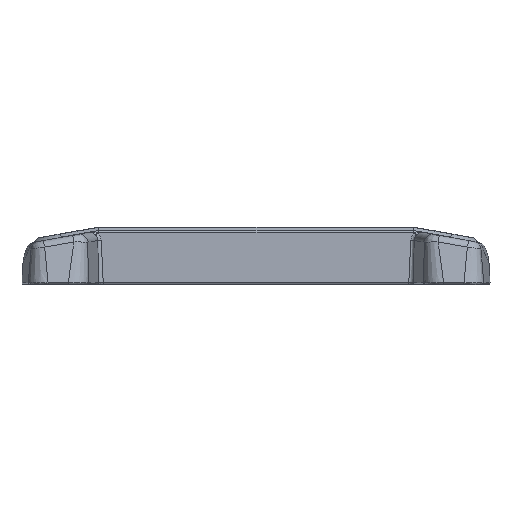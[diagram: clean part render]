
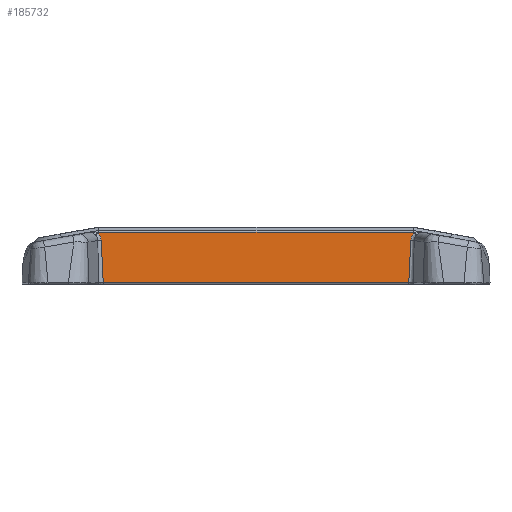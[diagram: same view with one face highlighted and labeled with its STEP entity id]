
A CAD part, top view. The second image highlights one B-rep face of the part: STEP entity #185732.
In plain terms, the highlighted planar face has unit normal (0, 0.018, 1).
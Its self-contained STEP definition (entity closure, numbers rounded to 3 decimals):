
#12583=CARTESIAN_POINT('',(193.098,-70.116,
167.4));
#12623=CARTESIAN_POINT('',(-193.098,-70.116,
167.4));
#12624=CARTESIAN_POINT('',(-193.215,-67.715,
167.358));
#12625=CARTESIAN_POINT('',(-193.446,-62.987,
167.275));
#12626=CARTESIAN_POINT('',(-193.783,-56.137,
167.156));
#12627=CARTESIAN_POINT('',(-194.111,-49.457,
167.039));
#12628=CARTESIAN_POINT('',(-194.432,-42.899,
166.925));
#12629=CARTESIAN_POINT('',(-194.745,-36.407,
166.811));
#12630=CARTESIAN_POINT('',(-195.046,-29.948,
166.698));
#12631=CARTESIAN_POINT('',(-195.331,-23.492,
166.586));
#12632=CARTESIAN_POINT('',(-195.508,-19.16,
166.51));
#12633=CARTESIAN_POINT('',(-195.592,-16.99,
166.472));
#12638=CARTESIAN_POINT('',(-195.592,-16.99,
166.472));
#12639=CARTESIAN_POINT('',(-195.599,-16.818,
166.469));
#12640=CARTESIAN_POINT('',(-195.618,-16.477,
166.463));
#12641=CARTESIAN_POINT('',(-195.666,-15.964,
166.454));
#12642=CARTESIAN_POINT('',(-195.731,-15.454,
166.445));
#12643=CARTESIAN_POINT('',(-195.815,-14.947,
166.437));
#12644=CARTESIAN_POINT('',(-195.918,-14.443,
166.428));
#12645=CARTESIAN_POINT('',(-196.038,-13.943,
166.419));
#12646=CARTESIAN_POINT('',(-196.175,-13.448,
166.41));
#12647=CARTESIAN_POINT('',(-196.331,-12.958,
166.402));
#12648=CARTESIAN_POINT('',(-196.504,-12.475,
166.393));
#12649=CARTESIAN_POINT('',(-196.693,-11.998,
166.385));
#12650=CARTESIAN_POINT('',(-196.9,-11.529,
166.377));
#12651=CARTESIAN_POINT('',(-197.124,-11.067,
166.369));
#12652=CARTESIAN_POINT('',(-197.363,-10.614,
166.361));
#12653=CARTESIAN_POINT('',(-197.619,-10.17,
166.353));
#12654=CARTESIAN_POINT('',(-197.89,-9.736,
166.346));
#12655=CARTESIAN_POINT('',(-198.177,-9.312,
166.338));
#12656=CARTESIAN_POINT('',(-198.478,-8.898,
166.331));
#12657=CARTESIAN_POINT('',(-198.794,-8.496,
166.324));
#12658=CARTESIAN_POINT('',(-199.124,-8.105,
166.317));
#12659=CARTESIAN_POINT('',(-199.468,-7.727,
166.311));
#12660=CARTESIAN_POINT('',(-199.825,-7.362,
166.304));
#12661=CARTESIAN_POINT('',(-200.071,-7.127,
166.3));
#12662=CARTESIAN_POINT('',(-200.196,-7.012,
166.298));
#12667=DIRECTION('',(-0.985,-0.175,0.003));
#12668=VECTOR('',#12667,1.445);
#12669=CARTESIAN_POINT('',(-198.773,-6.759,
166.294));
#12670=LINE('',#12669,#12668);
#12674=DIRECTION('',(-0.985,0.175,-0.003));
#12675=VECTOR('',#12674,1.445);
#12676=CARTESIAN_POINT('',(200.196,-7.012,
166.298));
#12677=LINE('',#12676,#12675);
#12681=CARTESIAN_POINT('',(195.592,-16.99,
166.472));
#12682=CARTESIAN_POINT('',(195.599,-16.81,
166.469));
#12683=CARTESIAN_POINT('',(195.62,-16.452,
166.463));
#12684=CARTESIAN_POINT('',(195.671,-15.916,
166.454));
#12685=CARTESIAN_POINT('',(195.742,-15.382,
166.444));
#12686=CARTESIAN_POINT('',(195.833,-14.851,
166.435));
#12687=CARTESIAN_POINT('',(195.944,-14.323,
166.426));
#12688=CARTESIAN_POINT('',(196.075,-13.801,
166.417));
#12689=CARTESIAN_POINT('',(196.225,-13.284,
166.408));
#12690=CARTESIAN_POINT('',(196.394,-12.774,
166.399));
#12691=CARTESIAN_POINT('',(196.582,-12.27,
166.39));
#12692=CARTESIAN_POINT('',(196.789,-11.774,
166.381));
#12693=CARTESIAN_POINT('',(197.015,-11.286,
166.373));
#12694=CARTESIAN_POINT('',(197.258,-10.807,
166.364));
#12695=CARTESIAN_POINT('',(197.519,-10.338,
166.356));
#12696=CARTESIAN_POINT('',(197.798,-9.88,
166.348));
#12697=CARTESIAN_POINT('',(198.093,-9.432,
166.34));
#12698=CARTESIAN_POINT('',(198.405,-8.996,
166.333));
#12699=CARTESIAN_POINT('',(198.732,-8.572,
166.325));
#12700=CARTESIAN_POINT('',(199.076,-8.16,
166.318));
#12701=CARTESIAN_POINT('',(199.434,-7.762,
166.311));
#12702=CARTESIAN_POINT('',(199.807,-7.379,
166.305));
#12703=CARTESIAN_POINT('',(200.065,-7.133,
166.3));
#12704=CARTESIAN_POINT('',(200.196,-7.012,
166.298));
#12709=CARTESIAN_POINT('',(193.098,-70.116,
167.4));
#12710=CARTESIAN_POINT('',(193.215,-67.715,
167.358));
#12711=CARTESIAN_POINT('',(193.446,-62.987,
167.275));
#12712=CARTESIAN_POINT('',(193.783,-56.131,
167.156));
#12713=CARTESIAN_POINT('',(194.112,-49.444,
167.039));
#12714=CARTESIAN_POINT('',(194.433,-42.881,
166.924));
#12715=CARTESIAN_POINT('',(194.745,-36.392,
166.811));
#12716=CARTESIAN_POINT('',(195.046,-29.939,
166.698));
#12717=CARTESIAN_POINT('',(195.331,-23.49,
166.586));
#12718=CARTESIAN_POINT('',(195.508,-19.16,
166.51));
#12719=CARTESIAN_POINT('',(195.592,-16.99,
166.472));
#12739=DIRECTION('',(1.,0.,0.));
#12740=VECTOR('',#12739,386.196);
#12741=CARTESIAN_POINT('',(-193.098,-70.116,
167.4));
#12742=LINE('',#12741,#12740);
#12791=CARTESIAN_POINT('',(-193.098,-70.116,
167.4));
#14527=DIRECTION('',(-1.,0.,0.));
#14528=VECTOR('',#14527,397.546);
#14529=CARTESIAN_POINT('',(198.773,-6.759,
166.294));
#14530=LINE('',#14529,#14528);
#14587=CARTESIAN_POINT('',(198.773,-6.759,
166.294));
#14592=CARTESIAN_POINT('',(-198.773,-6.759,
166.294));
#14618=CARTESIAN_POINT('',(-200.196,-7.012,
166.298));
#169774=VERTEX_POINT('',#12681);
#169775=VERTEX_POINT('',#12704);
#169789=VERTEX_POINT('',#14587);
#169850=VERTEX_POINT('',#12583);
#173021=VERTEX_POINT('',#14618);
#173031=VERTEX_POINT('',#14592);
#173037=VERTEX_POINT('',#12638);
#173056=VERTEX_POINT('',#12791);
#185710=CARTESIAN_POINT('',(0.,-72.151,167.435));
#185711=DIRECTION('',(0.,0.017,1.));
#185712=DIRECTION('',(0.,1.,-0.017));
#185713=AXIS2_PLACEMENT_3D('',#185710,#185711,#185712);
#185714=PLANE('',#185713);
#185716=ORIENTED_EDGE('',*,*,#185715,.F.);
#185718=ORIENTED_EDGE('',*,*,#185717,.T.);
#185720=ORIENTED_EDGE('',*,*,#185719,.T.);
#185722=ORIENTED_EDGE('',*,*,#185721,.F.);
#185724=ORIENTED_EDGE('',*,*,#185723,.F.);
#185726=ORIENTED_EDGE('',*,*,#185725,.F.);
#185728=ORIENTED_EDGE('',*,*,#185727,.F.);
#185729=ORIENTED_EDGE('',*,*,#185695,.F.);
#185730=EDGE_LOOP('',(#185716,#185718,#185720,#185722,#185724,#185726,#185728,
#185729));
#185731=FACE_OUTER_BOUND('',#185730,.F.);
#12634=B_SPLINE_CURVE_WITH_KNOTS('',3,(#12623,#12624,#12625,#12626,#12627,
#12628,#12629,#12630,#12631,#12632,#12633),.UNSPECIFIED.,.F.,.F.,(4,1,1,1,1,1,1,
1,4),(0.,0.125,0.25,0.375,0.5,0.625,0.75,0.875,1.),
.UNSPECIFIED.);
#12663=B_SPLINE_CURVE_WITH_KNOTS('',3,(#12638,#12639,#12640,#12641,#12642,
#12643,#12644,#12645,#12646,#12647,#12648,#12649,#12650,#12651,#12652,#12653,
#12654,#12655,#12656,#12657,#12658,#12659,#12660,#12661,#12662),.UNSPECIFIED.,
.F.,.F.,(4,1,1,1,1,1,1,1,1,1,1,1,1,1,1,1,1,1,1,1,1,1,4),(0.,0.045,
0.091,0.136,0.182,0.227,
0.273,0.318,0.364,0.409,
0.455,0.5,0.545,0.591,0.636,
0.682,0.727,0.773,0.818,
0.864,0.909,0.955,1.),.UNSPECIFIED.);
#12705=B_SPLINE_CURVE_WITH_KNOTS('',3,(#12681,#12682,#12683,#12684,#12685,
#12686,#12687,#12688,#12689,#12690,#12691,#12692,#12693,#12694,#12695,#12696,
#12697,#12698,#12699,#12700,#12701,#12702,#12703,#12704),.UNSPECIFIED.,.F.,.F.,(
4,1,1,1,1,1,1,1,1,1,1,1,1,1,1,1,1,1,1,1,1,4),(0.,0.048,
0.095,0.143,0.19,0.238,
0.286,0.333,0.381,0.429,
0.476,0.524,0.571,0.619,
0.667,0.714,0.762,0.81,
0.857,0.905,0.952,1.),.UNSPECIFIED.);
#12720=B_SPLINE_CURVE_WITH_KNOTS('',3,(#12709,#12710,#12711,#12712,#12713,
#12714,#12715,#12716,#12717,#12718,#12719),.UNSPECIFIED.,.F.,.F.,(4,1,1,1,1,1,1,
1,4),(0.,0.125,0.25,0.375,0.5,0.625,0.75,0.875,1.),
.UNSPECIFIED.);
#185695=EDGE_CURVE('',#169850,#169774,#12720,.T.);
#185715=EDGE_CURVE('',#173056,#169850,#12742,.T.);
#185717=EDGE_CURVE('',#173056,#173037,#12634,.T.);
#185719=EDGE_CURVE('',#173037,#173021,#12663,.T.);
#185721=EDGE_CURVE('',#173031,#173021,#12670,.T.);
#185723=EDGE_CURVE('',#169789,#173031,#14530,.T.);
#185725=EDGE_CURVE('',#169775,#169789,#12677,.T.);
#185727=EDGE_CURVE('',#169774,#169775,#12705,.T.);
#185732=ADVANCED_FACE('',(#185731),#185714,.T.);
